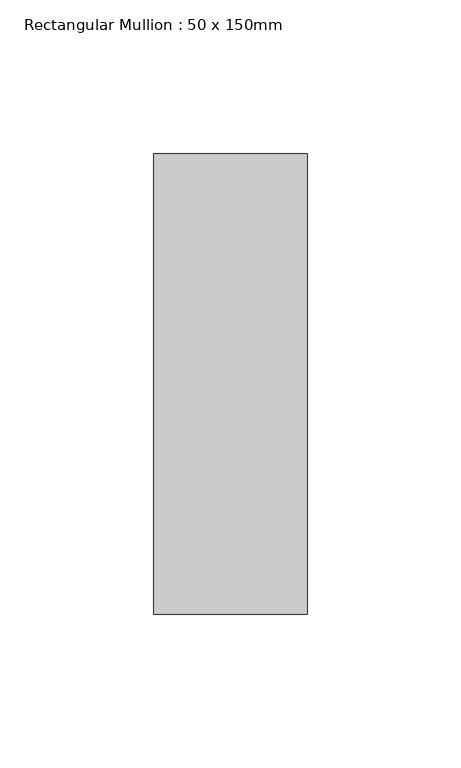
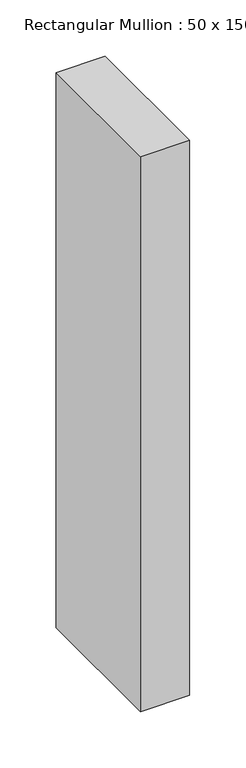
"""IFC4 building model written with IfcOpenShell, lengths in millimetres: member geometry, Rectangular Mullion : 50 x 150mm."""

from ifc_helpers import new_model, si_unit, frame, origin, place, context, project, spatial, polyline, outline, extrude, source, transform, mapped, element, save


def rectangular_mullion_50_x_150mm_636173d5(model_context):
    return source(origin(), model_context, "Body", "SweptSolid", [
        extrude(outline(polyline([(0.0, 75.0), (0.0, -75.0), (-50.0, -75.0), (-50.0, 75.0), (0.0, 75.0)])), frame((0.0, 0.0, -601.145744), z_axis=(0.0, 0.0, 1.0), x_axis=(1.0, 0.0, 0.0)), (0.0, 0.0, 1.0), 601.145744),
    ])


if __name__ == "__main__":
    model = new_model("IFC4")
    model_context = context("Model", 3, world=origin())
    ifc_project = project(units=[si_unit("LENGTHUNIT", "METRE", prefix="MILLI")], contexts=[model_context])
    site = spatial("IfcSite", under=ifc_project)
    building = spatial("IfcBuilding", under=site)
    placement = place(None, origin())
    rectangular_mullion_50_x_150mm_shape = rectangular_mullion_50_x_150mm_636173d5(model_context)
    element("IfcMember", 1, ObjectType="Rectangular Mullion : 50 x 150mm", at=placement, inside=building, context=model_context, shape_type="MappedRepresentation", body=[
        mapped(rectangular_mullion_50_x_150mm_shape, transform((0.0, 0.0, 0.0), x_axis=(1.0, 0.0, 0.0), y_axis=(0.0, 1.0, 0.0), z_axis=(0.0, 0.0, 1.0))),
    ])
    save(model, "model.ifc")
